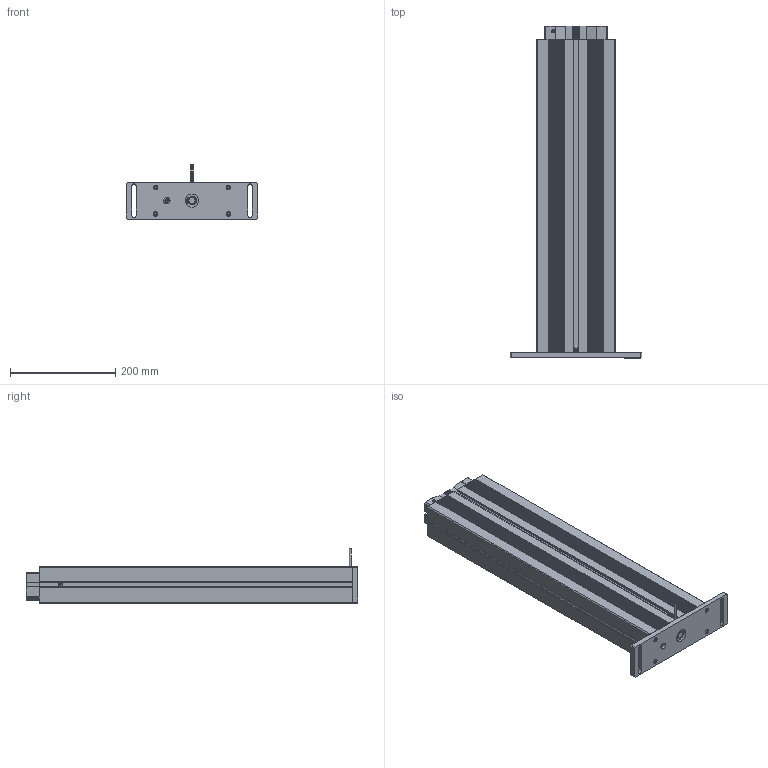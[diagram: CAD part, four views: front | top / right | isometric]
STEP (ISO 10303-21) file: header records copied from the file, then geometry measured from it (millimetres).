
FILE_DESCRIPTION(/* description */ ('Unknown'),/* implementation_level */ '2;1');
FILE_NAME(/* name */ '306.00804_03_eingefahren',/* time_stamp */ '2019-03-11T17:31:14+01:00',/* author */ ('Unknown'),/* organization */ ('Unknown'),/* preprocessor_version */ 'ST-DEVELOPER v16.7',/* originating_system */ 'DEX',/* authorisation */ $);
FILE_SCHEMA (('AP203_CONFIGURATION_CONTROLLED_3D_DESIGN_OF_MECHANICAL_PARTS_AND_ASSEMBLIES_MIM_LF { 1 0 10303 203 3 1 4 }','TECHNICAL_DATA_PACKAGING','AUTOMOTIVE_DESIGN {1 0 10303 214 3 1 1}'));
Products named in the file (16): 306.00804; 115.00074_oa_0; 119.00311; 119.00312; 142.00188; 113.00002_70mm; 124.00123; 142.00166; 107.00027_oa_1; 142.00021; 125.00021; 115.00007_oa_2; 125.00033; 126.00147; 143.00047; 142.00031
Assembly tree (19 placements, depth 3):
  306.00804
    115.00074_oa_0
      119.00311
      119.00312
      142.00188  x2
    113.00002_70mm
    124.00123
    142.00166  x4
    107.00027_oa_1
      142.00021
      125.00021
      115.00007_oa_2
      125.00033
    126.00147
    143.00047
    142.00031
Bounding box: 250 x 630 x 103 mm (x, y, z)
Volume: 2669942.8 mm3; surface area: 1272912 mm2
Topology: 16 solids, 16 shells, 2356 faces, 6893 edges, 4589 vertices
Faces by surface type: plane 1321, cylinder 1000, cone 21, torus 12, bspline 1, sphere 1
Full cylindrical faces by diameter (mm): 1.8 x2, 2.2 x1, 2.78 x1, 3.242 x2, 3.4 x1, 3.5 x1, 4 x3, 4.1 x1, 4.2 x1, 5 x5, 5.5 x4, 6.6 x1, 6.917 x2, 8 x5, 8.5 x4, 8.7 x4, 9 x1, 10 x1, 12.5 x2, 13 x2, 13.5 x1, 13.9 x2, 25 x1, 30 x2
Entity records: 87253 total; most frequent: CARTESIAN_POINT 14211, ORIENTED_EDGE 13394, DIRECTION 13118, EDGE_CURVE 6697, VERTEX_POINT 4498, LINE 4480, VECTOR 4480, AXIS2_PLACEMENT_3D 4319
